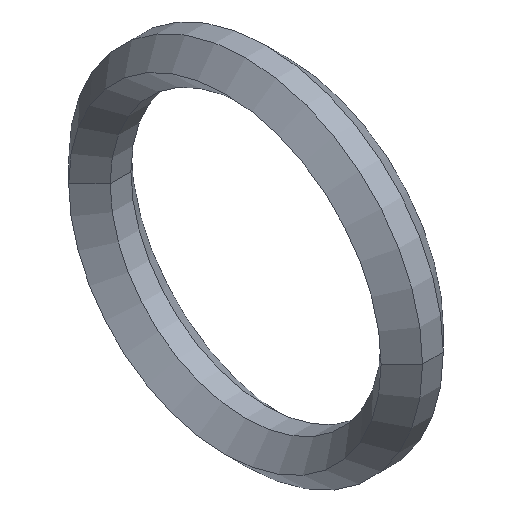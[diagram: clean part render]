
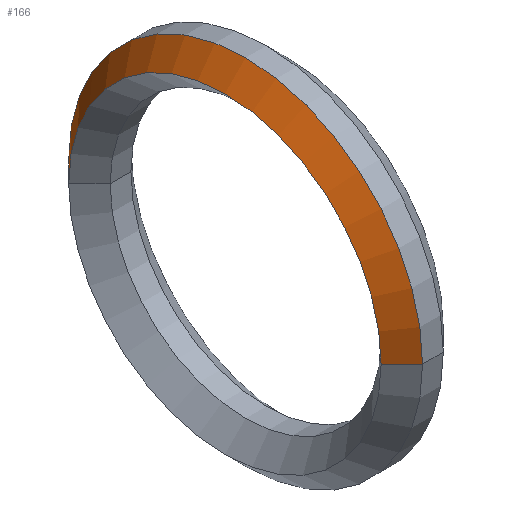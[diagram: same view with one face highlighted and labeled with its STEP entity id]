
A CAD part, isometric view. The second image highlights one B-rep face of the part: STEP entity #166.
In plain terms, the highlighted conical face has half-angle 45 degrees and reference radius 12.05 mm.
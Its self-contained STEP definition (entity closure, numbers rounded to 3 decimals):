
#125=CARTESIAN_POINT('',(-1.5,0.0,0.0));
#126=DIRECTION('',(1.0,0.0,0.0));
#127=DIRECTION('',(0.0,1.0,0.0));
#128=AXIS2_PLACEMENT_3D('',#125,#126,#127);
#129=CONICAL_SURFACE('',#128,12.05,45.);
#130=CARTESIAN_POINT('',(-2.25,11.3,0.0));
#131=VERTEX_POINT('',#130);
#132=CARTESIAN_POINT('',(-0.75,12.8,0.0));
#133=VERTEX_POINT('',#132);
#134=CARTESIAN_POINT('',(-2.25,11.3,0.0));
#135=DIRECTION('',(0.707,0.707,0.0));
#136=VECTOR('',#135,2.121);
#137=LINE('',#134,#136);
#138=EDGE_CURVE('',#131,#133,#137,.T.);
#139=ORIENTED_EDGE('',*,*,#138,.F.);
#140=CARTESIAN_POINT('',(-2.25,-11.3,0.));
#141=VERTEX_POINT('',#140);
#142=CARTESIAN_POINT('',(-2.25,0.0,0.0));
#143=DIRECTION('',(1.0,0.0,0.0));
#144=DIRECTION('',(0.0,1.0,0.0));
#145=AXIS2_PLACEMENT_3D('',#142,#143,#144);
#146=CIRCLE('',#145,11.3);
#147=EDGE_CURVE('',#131,#141,#146,.T.);
#148=ORIENTED_EDGE('',*,*,#147,.T.);
#149=CARTESIAN_POINT('',(-0.75,-12.8,0.));
#150=VERTEX_POINT('',#149);
#151=CARTESIAN_POINT('',(-0.75,-12.8,0.));
#152=DIRECTION('',(-0.707,0.707,0.));
#153=VECTOR('',#152,2.121);
#154=LINE('',#151,#153);
#155=EDGE_CURVE('',#150,#141,#154,.T.);
#156=ORIENTED_EDGE('',*,*,#155,.F.);
#157=CARTESIAN_POINT('',(-0.75,0.0,0.0));
#158=DIRECTION('',(1.0,0.0,0.0));
#159=DIRECTION('',(0.0,1.0,0.0));
#160=AXIS2_PLACEMENT_3D('',#157,#158,#159);
#161=CIRCLE('',#160,12.8);
#162=EDGE_CURVE('',#133,#150,#161,.T.);
#163=ORIENTED_EDGE('',*,*,#162,.F.);
#164=EDGE_LOOP('',(#139,#148,#156,#163));
#165=FACE_OUTER_BOUND('',#164,.T.);
#166=ADVANCED_FACE('',(#165),#129,.T.);
